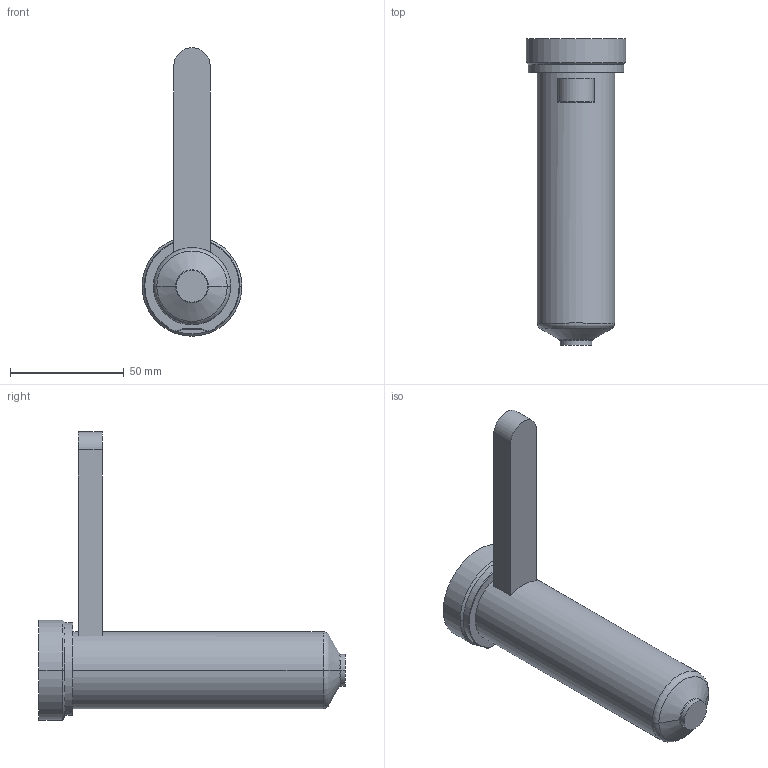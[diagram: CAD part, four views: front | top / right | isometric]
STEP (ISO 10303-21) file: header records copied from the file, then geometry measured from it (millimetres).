
FILE_DESCRIPTION((''),'2;1');
FILE_NAME('EO10_SG_SG_120_COT','2024-02-19T12:24:31',('sundharh'),(''),'CREO PARAMETRIC BY PTC INC, 2023154','CREO PARAMETRIC BY PTC INC, 2023154','');
FILE_SCHEMA(('CONFIG_CONTROL_DESIGN'));
Length unit declared in the file: millimetre
Products named in the file (1): EO10_SG_SG_120_COT
Bounding box: 44 x 135 x 127 mm (x, y, z)
Volume: 141506.7 mm3; surface area: 21729.1 mm2
Topology: 1 solids, 1 shells, 31 faces, 67 edges, 40 vertices
Faces by surface type: cylinder 11, plane 9, torus 7, cone 4
Entity records: 959 total; most frequent: CARTESIAN_POINT 226, DIRECTION 159, ORIENTED_EDGE 134, AXIS2_PLACEMENT_3D 67, EDGE_CURVE 67, VERTEX_POINT 40, CIRCLE 36, EDGE_LOOP 33
